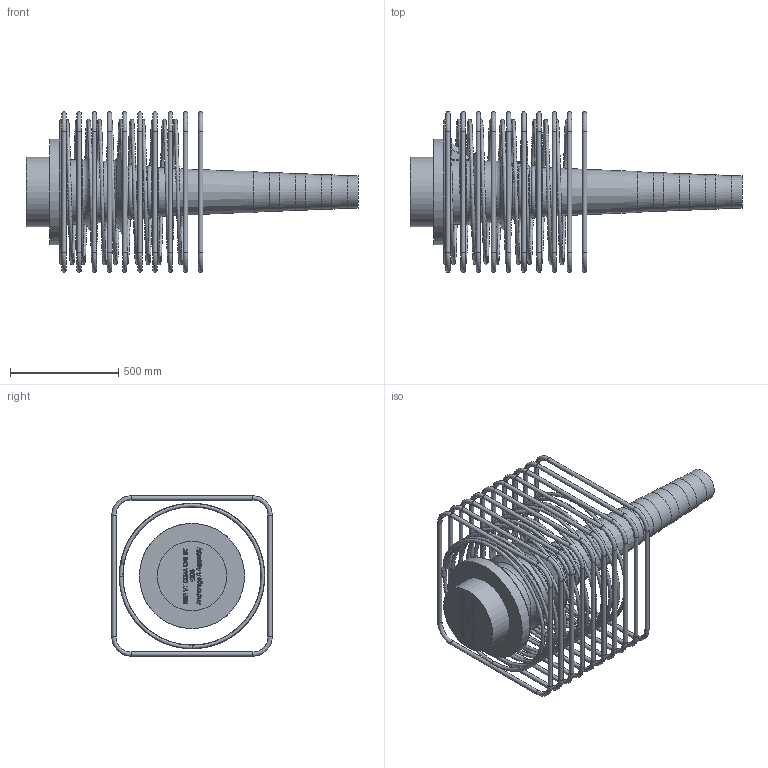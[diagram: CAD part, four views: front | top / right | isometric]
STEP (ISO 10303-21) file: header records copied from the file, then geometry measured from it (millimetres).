
FILE_DESCRIPTION(/* description */ (''),/* implementation_level */ '2;1');
FILE_NAME(/* name */ 'BBR VT CONA CMI BT 4306_Anchorage A Assembly_CS-34,28.stp',/* time_stamp */ '2025-05-21T13:40:22+02:00',/* author */ ('tk'),/* organization */ (''),/* preprocessor_version */ 'ST-DEVELOPER v20',/* originating_system */ 'Autodesk Inventor 2024',/* authorisation */ '');
FILE_SCHEMA (('AUTOMOTIVE_DESIGN { 1 0 10303 214 3 1 1 }'));
Length unit declared in the file: millimetre
Products named in the file (1): BBR VT CONA CMI BT 4306_Anchorage A Assembly_CS-34,28
Bounding box: 1530.46 x 740 x 740 mm (x, y, z)
Volume: 86346022.9 mm3; surface area: 4584209.3 mm2
Topology: 12 solids, 12 shells, 794 faces, 2142 edges, 1409 vertices
Faces by surface type: plane 331, bspline 315, torus 75, cylinder 60, cone 11, sphere 2
Full cylindrical faces by diameter (mm): 20 x40, 35 x1, 57 x1, 149 x1, 159 x1, 169 x1, 179 x1, 282 x1, 320 x1, 377 x1, 390 x1, 485 x1
Entity records: 33474 total; most frequent: CARTESIAN_POINT 14540, ORIENTED_EDGE 4280, DIRECTION 2794, EDGE_CURVE 2140, VERTEX_POINT 1409, LINE 1150, VECTOR 1150, EDGE_LOOP 855
